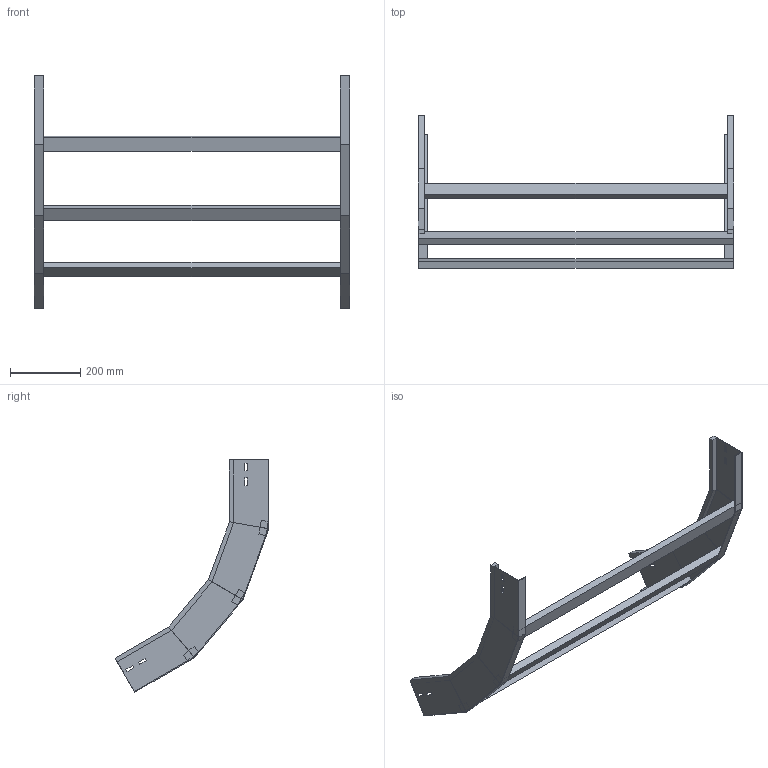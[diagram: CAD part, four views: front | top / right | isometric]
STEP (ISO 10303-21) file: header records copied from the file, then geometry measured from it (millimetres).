
FILE_DESCRIPTION (( 'STEP AP214' ), '1' );
FILE_NAME ('A2X40B5J900XX.step', '2025-03-20T10:15:01', ( '' ), ( '' ), 'SwSTEP 2.0', 'SolidWorks 2023', '' );
FILE_SCHEMA (( 'AUTOMOTIVE_DESIGN' ));
Length unit declared in the file: millimetre
Products named in the file (3): A2X40B5J900XX; LONGH.SALITA_60°_H112.5_R500; TRAVERSINO_900
Assembly tree (5 placements, depth 2):
  A2X40B5J900XX
    LONGH.SALITA_60°_H112.5_R500  x2
    TRAVERSINO_900  x3
Bounding box: 900 x 438.74 x 662.49 mm (x, y, z)
Volume: 2874466.9 mm3; surface area: 808519.8 mm2
Topology: 5 solids, 5 shells, 118 faces, 276 edges, 168 vertices
Faces by surface type: plane 118
Entity records: 1672 total; most frequent: CARTESIAN_POINT 276, ORIENTED_EDGE 264, DIRECTION 260, EDGE_CURVE 132, LINE 132, VECTOR 132, VERTEX_POINT 80, EDGE_LOOP 64
